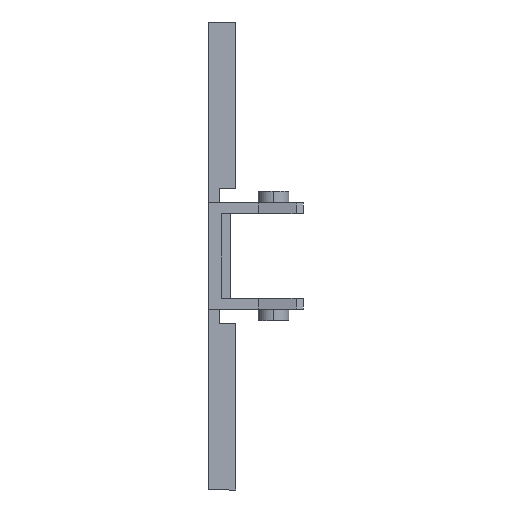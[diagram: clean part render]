
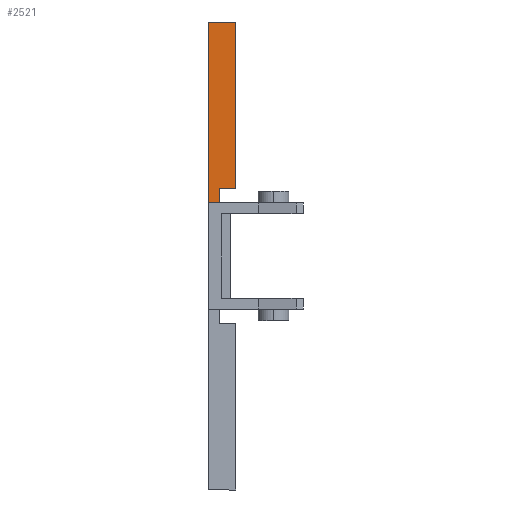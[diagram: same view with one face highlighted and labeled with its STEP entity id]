
A CAD part, front view. The second image highlights one B-rep face of the part: STEP entity #2521.
In plain terms, the highlighted planar face has unit normal (0, -1, 0).
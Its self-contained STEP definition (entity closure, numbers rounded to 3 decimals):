
#6 = VERTEX_POINT ( 'NONE', #116 ) ;
#7 = VERTEX_POINT ( 'NONE', #216 ) ;
#8 = VERTEX_POINT ( 'NONE', #110 ) ;
#10 = VERTEX_POINT ( 'NONE', #112 ) ;
#11 = VERTEX_POINT ( 'NONE', #214 ) ;
#54 = VERTEX_POINT ( 'NONE', #256 ) ;
#110 = CARTESIAN_POINT ( 'NONE',  ( 1.2, -9., 5.9 ) ) ;
#112 = CARTESIAN_POINT ( 'NONE',  ( 3., -9., 7.5 ) ) ;
#116 = CARTESIAN_POINT ( 'NONE',  ( 1.2, -9., 7.5 ) ) ;
#214 = CARTESIAN_POINT ( 'NONE',  ( 3., -9., 26. ) ) ;
#216 = CARTESIAN_POINT ( 'NONE',  ( 0., -9., 5.9 ) ) ;
#256 = CARTESIAN_POINT ( 'NONE',  ( 0., -9., 26. ) ) ;
#460 = DIRECTION ( 'NONE',  ( 1., 0., 0. ) ) ;
#462 = CARTESIAN_POINT ( 'NONE',  ( 3., -9., 26. ) ) ;
#464 = CARTESIAN_POINT ( 'NONE',  ( 0., -9., 26. ) ) ;
#482 = DIRECTION ( 'NONE',  ( 0., 0., -1. ) ) ;
#571 = LINE ( 'NONE', #464, #578 ) ;
#575 = LINE ( 'NONE', #462, #589 ) ;
#578 = VECTOR ( 'NONE', #460, 1000. ) ;
#589 = VECTOR ( 'NONE', #482, 1000. ) ;
#773 = ORIENTED_EDGE ( 'NONE', *, *, #2292, .F. ) ;
#774 = ORIENTED_EDGE ( 'NONE', *, *, #2271, .F. ) ;
#775 = ORIENTED_EDGE ( 'NONE', *, *, #2077, .F. ) ;
#776 = ORIENTED_EDGE ( 'NONE', *, *, #2185, .F. ) ;
#777 = ORIENTED_EDGE ( 'NONE', *, *, #2067, .F. ) ;
#778 = ORIENTED_EDGE ( 'NONE', *, *, #2123, .F. ) ;
#1041 = EDGE_LOOP ( 'NONE', ( #773, #774, #778, #776, #775, #777 ) ) ;
#1255 = CARTESIAN_POINT ( 'NONE',  ( 3., -9., 7.5 ) ) ;
#1256 = DIRECTION ( 'NONE',  ( -1., 0., 0. ) ) ;
#1336 = DIRECTION ( 'NONE',  ( 0., 0., -1. ) ) ;
#1355 = CARTESIAN_POINT ( 'NONE',  ( 0., -9., 5.9 ) ) ;
#1444 = DIRECTION ( 'NONE',  ( -1., 0., 0. ) ) ;
#1481 = CARTESIAN_POINT ( 'NONE',  ( 0., -9., 5. ) ) ;
#1482 = DIRECTION ( 'NONE',  ( 0., 0., 1. ) ) ;
#1849 = DIRECTION ( 'NONE',  ( 0., 0., 1. ) ) ;
#1854 = DIRECTION ( 'NONE',  ( 0., 1., 0. ) ) ;
#1859 = CARTESIAN_POINT ( 'NONE',  ( 0., -9., 5. ) ) ;
#1863 = PLANE ( 'NONE',  #2232 ) ;
#2067 = EDGE_CURVE ( 'NONE', #54, #11, #571, .T. ) ;
#2077 = EDGE_CURVE ( 'NONE', #11, #10, #575, .T. ) ;
#2123 = EDGE_CURVE ( 'NONE', #6, #8, #2825, .T. ) ;
#2185 = EDGE_CURVE ( 'NONE', #10, #6, #2850, .T. ) ;
#2232 = AXIS2_PLACEMENT_3D ( 'NONE', #1859, #1854, #1849 ) ;
#2271 = EDGE_CURVE ( 'NONE', #8, #7, #2738, .T. ) ;
#2292 = EDGE_CURVE ( 'NONE', #7, #54, #2987, .T. ) ;
#2432 = CARTESIAN_POINT ( 'NONE',  ( 1.2, -9., 7.5 ) ) ;
#2521 = ADVANCED_FACE ( 'NONE', ( #2579 ), #1863, .F. ) ;
#2537 = VECTOR ( 'NONE', #1336, 1000. ) ;
#2579 = FACE_OUTER_BOUND ( 'NONE', #1041, .T. ) ;
#2738 = LINE ( 'NONE', #1355, #2750 ) ;
#2750 = VECTOR ( 'NONE', #1444, 1000. ) ;
#2825 = LINE ( 'NONE', #2432, #2537 ) ;
#2850 = LINE ( 'NONE', #1255, #2851 ) ;
#2851 = VECTOR ( 'NONE', #1256, 1000. ) ;
#2984 = VECTOR ( 'NONE', #1482, 1000. ) ;
#2987 = LINE ( 'NONE', #1481, #2984 ) ;
